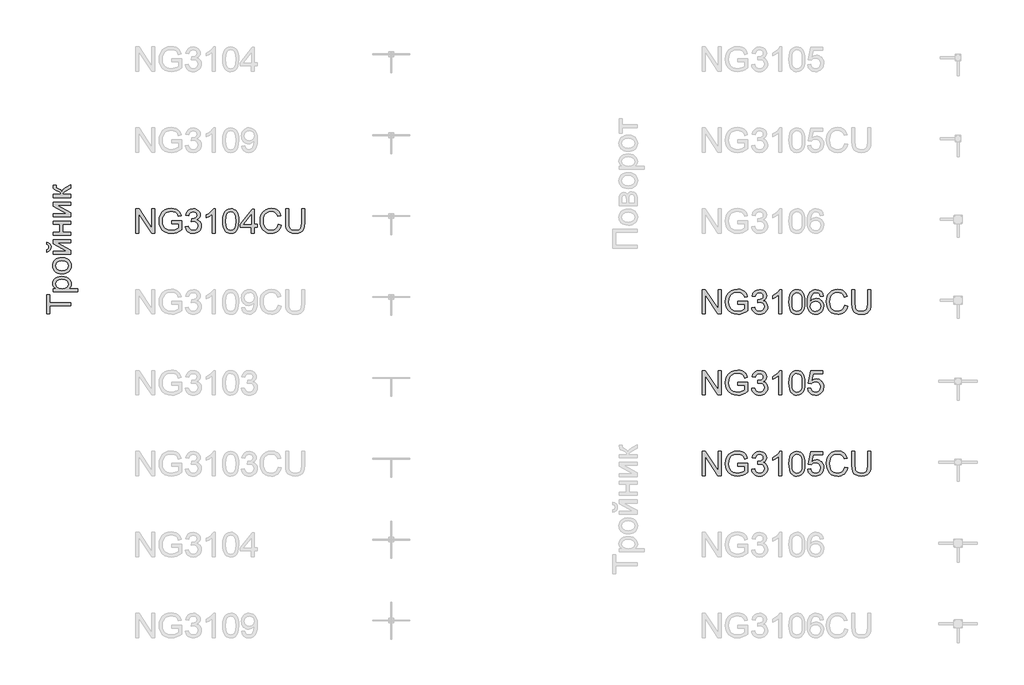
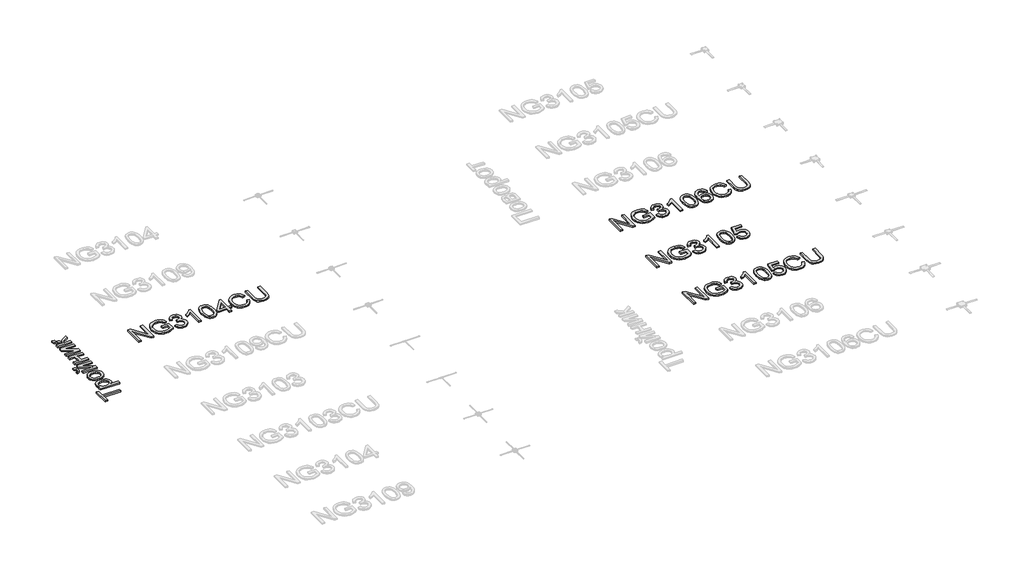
# One storey, part 121 of 124: 5 proxies.
"""IFC4 building model written with IfcOpenShell, lengths in millimetres."""

from ifc_helpers import new_model, si_unit, origin, origin_with_axes, place, context, project, spatial, polyline, outline, extrude, element, save

model = new_model("IFC4")

# Units and contexts
model_context = context("Model", 3, world=origin())
ifc_project = project(units=[si_unit("LENGTHUNIT", "METRE", prefix="MILLI")], contexts=[model_context])

# Site, building, storey
site = spatial("IfcSite", under=ifc_project)
building = spatial("IfcBuilding", under=site)
storey = spatial("IfcBuildingStorey", under=building, Name="Этаж 01", Elevation=0.0)

# Proxies
placement = place(None, origin())
element("IfcBuildingElementProxy", 1, Name="300", ObjectType="300", at=placement, inside=storey, context=model_context, shape_type="SweptSolid", body=[
    extrude(outline(polyline([(56699.8220677, -8519.5141033), (56699.8220677, -8218.1451728), (56740.1419344, -8218.1451728), (56897.5954283, -8456.9005877), (56897.5954283, -8218.1451728), (56935.2665446, -8218.1451728), (56935.2665446, -8519.5141033), (56894.9466779, -8519.5141033), (56737.493184, -8280.685112), (56737.493184, -8519.5141033), (56699.8220677, -8519.5141033)])), origin_with_axes(), (0.0, 0.0, 1.0), 20.0),
    extrude(outline(polyline([(57142.4576843, -8401.7918648), (57142.4576843, -8364.1207485), (57264.8888123, -8364.1207485), (57264.8888123, -8476.7662154), (57235.1363559, -8497.4595776), (57204.4458005, -8512.3036162), (57172.8907223, -8521.2431486), (57140.5446979, -8524.2229928), (57098.2842537, -8519.4865121), (57060.0889056, -8505.27707), (57028.3590835, -8482.0913073), (57005.4952175, -8450.4258646), (56991.6720515, -8412.4420486), (56987.0643295, -8370.301166), (56991.6536574, -8327.8567808), (57005.4216411, -8288.3738457), (57027.7980634, -8255.2552691), (57058.2127074, -8231.9039594), (57095.2584243, -8218.0532023), (57137.5280656, -8213.4362833), (57168.5589118, -8216.1126248), (57196.4627612, -8224.1416493), (57219.9612236, -8236.9439428), (57237.7759092, -8253.9400909), (57250.9552817, -8275.9486313), (57260.5478047, -8303.7881013), (57225.8197444, -8313.5737624), (57218.0666313, -8293.7173317), (57208.6396552, -8278.7353374), (57196.1684556, -8267.4413602), (57179.282672, -8258.6489805), (57159.1503298, -8252.9927948), (57136.9394544, -8251.1073996), (57110.9393944, -8253.1399476), (57088.7101248, -8259.2375917), (57070.3344191, -8268.6369766), (57055.8950508, -8280.5747474), (57036.5076697, -8309.6006368), (57027.6785018, -8338.037915), (57024.7354458, -8368.7560616), (57028.27631, -8404.780906), (57038.8989026, -8434.4229978), (57056.2813269, -8457.4708048), (57080.1016861, -8473.7127949), (57107.9779443, -8483.3421061), (57137.5280656, -8486.5518765), (57163.6200961, -8484.1330524), (57189.0683331, -8476.87658), (57211.1688439, -8466.8793868), (57227.217696, -8456.2384001), (57227.217696, -8401.7918648), (57142.4576843, -8401.7918648)])), origin_with_axes(), (0.0, 0.0, 1.0), 20.0),
    extrude(outline(polyline([(57311.9777077, -8439.4629811), (57349.648824, -8434.7540916), (57358.0825187, -8458.427298), (57370.4341567, -8474.4117707), (57387.3107432, -8483.51685), (57409.3192836, -8486.5518765), (57435.1445997, -8482.3764158), (57455.0838038, -8469.8500339), (57467.8309149, -8451.1616286), (57472.079952, -8428.5000977), (57467.8677031, -8406.988198), (57455.2309566, -8389.5413944), (57436.1010928, -8377.9807027), (57412.4094924, -8374.1271388), (57385.9955651, -8378.2474171), (57390.1894198, -8340.5763008), (57396.2226846, -8341.0177592), (57418.792245, -8338.3138265), (57438.9705724, -8330.2020285), (57453.2076056, -8316.4800301), (57457.9532834, -8296.9454962), (57454.5135867, -8280.6759149), (57444.1944967, -8267.4781484), (57428.4491473, -8258.7317539), (57408.7306724, -8255.8162891), (57388.9754093, -8258.7593451), (57372.8253897, -8267.588513), (57361.0347717, -8282.3037928), (57354.3577135, -8302.9051845), (57316.6865972, -8298.196295), (57327.7782394, -8264.3695455), (57347.5151084, -8239.1144465), (57374.5176468, -8223.3874912), (57407.4062972, -8218.1451728), (57431.0887007, -8220.7295438), (57452.8397236, -8228.4826569), (57471.1786411, -8240.7147332), (57484.624728, -8256.7359941), (57492.8744817, -8275.1944732), (57495.6243997, -8294.7382042), (57493.0124375, -8312.948363), (57485.176551, -8329.4662646), (57472.2271048, -8343.5377509), (57454.2744634, -8354.4086638), (57477.8556993, -8363.9368075), (57495.3300941, -8380.1604035), (57506.1458247, -8402.196535), (57509.7510683, -8429.1622852), (57507.9484465, -8448.2737549), (57502.5405812, -8465.8769084), (57493.5274723, -8481.9717457), (57480.9091199, -8496.5582668), (57465.536251, -8508.6615844), (57448.2595928, -8517.3068113), (57429.0791453, -8522.4939474), (57407.9949084, -8524.2229928), (57388.9386211, -8522.7468663), (57371.5745909, -8518.3184868), (57355.9028179, -8510.9378542), (57341.9233021, -8500.6049687), (57330.201662, -8487.9268354), (57321.3035162, -8473.5104598), (57315.2288648, -8457.3558417), (57311.9777077, -8439.4629811)])), origin_with_axes(), (0.0, 0.0, 1.0), 20.0),
    extrude(outline(polyline([(57683.9799812, -8519.5141033), (57646.3088649, -8519.5141033), (57646.3088649, -8284.6582375), (57610.6243114, -8310.0788834), (57570.9666323, -8329.0983826), (57570.9666323, -8293.4874054), (57600.5535417, -8277.3925681), (57626.1857197, -8258.2443103), (57646.3916383, -8237.8820419), (57659.6997695, -8218.1451728), (57683.9799812, -8218.1451728), (57683.9799812, -8519.5141033)])), origin_with_axes(), (0.0, 0.0, 1.0), 20.0),
    extrude(outline(polyline([(57773.4488824, -8371.2576592), (57776.2171944, -8323.0191326), (57784.5221305, -8284.5478729), (57798.2809171, -8255.2552691), (57817.4107808, -8234.5527098), (57842.0496775, -8222.2470571), (57872.3355627, -8218.1451728), (57895.5489166, -8220.573194), (57916.3342493, -8227.8572575), (57933.7166736, -8239.7122548), (57946.7213021, -8255.8530773), (57956.5437514, -8276.1417694), (57964.3796379, -8300.4403751), (57969.5115917, -8331.2964775), (57971.222243, -8371.2576592), (57968.4815222, -8419.2202743), (57960.2593596, -8457.5995635), (57946.5833464, -8486.9197585), (57927.4810738, -8507.7050912), (57902.7869949, -8520.0935174), (57872.3355627, -8524.2229928), (57851.5870182, -8522.4295681), (57833.1929184, -8517.0492939), (57817.1532634, -8508.0821703), (57803.4680532, -8495.5281972), (57790.334666, -8472.8344766), (57780.9536751, -8444.5581467), (57775.3250806, -8410.6992076), (57773.4488824, -8371.2576592)]), holes=[polyline([(57811.1199987, -8371.1840828), (57815.5345827, -8430.4406752), (57821.0528126, -8450.7086739), (57828.7783345, -8464.7364742), (57848.4968094, -8481.0980259), (57872.3355627, -8486.5518765), (57896.174316, -8481.0796318), (57915.892791, -8464.6628978), (57923.6183128, -8450.6121048), (57929.1365428, -8430.3487047), (57933.5511267, -8371.1840828), (57929.2836956, -8313.2610627), (57923.9494066, -8293.0597426), (57916.4814021, -8278.6985492), (57896.7997154, -8261.5368541), (57871.8941043, -8255.8162891), (57848.3128684, -8260.8562725), (57829.3669457, -8275.9762225), (57821.3839064, -8291.6112072), (57815.6817355, -8312.6908456), (57811.1199987, -8371.1840828)])]), origin_with_axes(), (0.0, 0.0, 1.0), 20.0),
    extrude(outline(polyline([(58197.2489409, -8298.196295), (58159.5778246, -8302.9051845), (58153.5077716, -8284.2351732), (58145.3040031, -8271.4880621), (58128.2158845, -8259.7342324), (58107.5593104, -8255.8162891), (58090.0481275, -8258.0971575), (58073.5670141, -8264.9397626), (58059.4127543, -8279.3515398), (58047.8520626, -8299.1895763), (58040.0437673, -8327.2497755), (58037.1466966, -8366.3280405), (58052.2574495, -8348.6972959), (58070.3664407, -8336.2720815), (58090.4619947, -8328.9052445), (58111.532436, -8326.4496322), (58129.6322301, -8328.1280938), (58146.3340727, -8333.1634786), (58161.6379637, -8341.5557866), (58175.5439031, -8353.3050178), (58187.0999963, -8367.7121965), (58195.3543486, -8384.0783467), (58200.3069599, -8402.4034686), (58201.9578304, -8422.6875621), (58198.8492275, -8449.6625094), (58189.523419, -8474.669288), (58174.7529569, -8495.8776851), (58155.3103934, -8511.4574876), (58132.0786454, -8521.0316165), (58105.9406297, -8524.2229928), (58083.4837331, -8522.1076713), (58063.2019389, -8515.7617069), (58045.0952469, -8505.1850995), (58029.1636573, -8490.3778492), (58016.1751236, -8470.7145566), (58006.8975995, -8445.5698222), (58001.3310851, -8414.9436461), (57999.4755803, -8378.8360283), (58001.5357194, -8338.3552133), (58007.7161369, -8303.8064954), (58018.0168328, -8275.1898747), (58032.437807, -8252.5053512), (58048.0681933, -8237.4727731), (58066.1909801, -8226.7352174), (58086.8061674, -8220.292684), (58109.9137552, -8218.1451728), (58142.9679525, -8223.4610676), (58169.437062, -8239.4087521), (58187.9783146, -8264.7374275), (58197.2489409, -8298.196295)]), holes=[polyline([(58037.1466966, -8422.0989509), (58039.3263974, -8438.7915965), (58045.8654998, -8454.7300839), (58056.0190429, -8468.4336882), (58069.0420655, -8478.4216844), (58084.7598238, -8484.5193285), (58102.9975737, -8486.5518765), (58127.8571995, -8482.3396276), (58147.4009305, -8469.7028811), (58160.0652682, -8449.8372534), (58164.2867141, -8423.9383609), (58160.1204505, -8399.0787351), (58147.6216597, -8380.1236153), (58127.7468349, -8368.1214652), (58101.4524693, -8364.1207485), (58076.6296317, -8368.1214652), (58055.8718901, -8380.1236153), (58041.8279949, -8398.6188826), (58037.1466966, -8422.0989509)])]), origin_with_axes(), (0.0, 0.0, 1.0), 20.0),
    extrude(outline(polyline([(58460.946755, -8412.3868663), (58498.6178713, -8422.0989509), (58491.1636624, -8445.5261362), (58481.235447, -8465.99647), (58468.8332253, -8483.5099522), (58453.9569971, -8498.0665829), (58436.9424548, -8509.5100123), (58418.1252908, -8517.6838903), (58397.5055049, -8522.5882172), (58375.0830973, -8524.2229928), (58331.3879134, -8519.27498), (58296.6874442, -8504.4309415), (58270.0895759, -8480.2059121), (58250.7021948, -8447.1149266), (58238.8655916, -8408.2114056), (58234.9200572, -8366.5487697), (58239.3806264, -8322.6052653), (58252.7623339, -8284.6582375), (58274.3662041, -8253.9124998), (58303.4932611, -8231.5728656), (58338.0373804, -8217.9704289), (58375.8924377, -8213.4362833), (58417.1963887, -8219.3040011), (58435.1651249, -8226.6386484), (58451.3450349, -8236.9071546), (58465.4694043, -8249.8382067), (58477.2715185, -8265.1604918), (58493.9089818, -8302.9787609), (58456.2378655, -8311.9550816), (58443.1780546, -8284.4834936), (58425.3357779, -8265.6387384), (58402.490306, -8254.7402343), (58374.4209097, -8251.1073996), (58342.0656883, -8255.1357074), (58315.4862141, -8267.220631), (58295.3170837, -8286.0929773), (58282.1928935, -8310.4835536), (58274.9916035, -8338.0563091), (58272.5911735, -8366.4751933), (58275.4330619, -8401.27683), (58283.9587271, -8431.3695772), (58298.4900659, -8455.6038036), (58319.3489751, -8472.8298781), (58344.3557537, -8483.1213769), (58371.330701, -8486.5518765), (58402.7754145, -8481.8797752), (58428.9778096, -8467.8634711), (58448.7606639, -8444.6501172), (58460.946755, -8412.3868663)])), origin_with_axes(), (0.0, 0.0, 1.0), 20.0),
    extrude(outline(polyline([(58748.1890168, -8218.1451728), (58785.8601331, -8218.1451728), (58785.8601331, -8392.0062037), (58783.3033533, -8432.7215435), (58775.6330137, -8464.0742866), (58761.30401, -8488.2625278), (58738.7712378, -8507.484362), (58707.9795148, -8520.0383351), (58668.8736587, -8524.2229928), (58630.6231282, -8520.580961), (58600.0429374, -8509.6548658), (58577.1238891, -8491.8217861), (58561.8567863, -8467.4588009), (58553.2759387, -8434.7816827), (58550.4156562, -8392.0062037), (58550.4156562, -8218.1451728), (58588.0867725, -8218.1451728), (58588.0867725, -8390.6818285), (58589.9445766, -8424.5361692), (58595.5179888, -8448.108208), (58605.6163496, -8464.4329715), (58621.0489993, -8476.5454862), (58641.1721444, -8484.0502789), (58665.3419915, -8486.5518765), (58703.6569013, -8481.6038637), (58717.9997006, -8475.4188476), (58729.1327295, -8466.7598252), (58737.4698552, -8454.5829311), (58743.424945, -8437.8443003), (58748.1890168, -8390.6818285), (58748.1890168, -8218.1451728)])), origin_with_axes(), (0.0, 0.0, 1.0), 20.0),
])
element("IfcBuildingElementProxy", 2, Name="300", ObjectType="300", at=placement, inside=storey, context=model_context, shape_type="SweptSolid", body=[
    extrude(outline(polyline([(56699.8220677, -9519.5141033), (56699.8220677, -9218.1451728), (56740.1419344, -9218.1451728), (56897.5954283, -9456.9005877), (56897.5954283, -9218.1451728), (56935.2665446, -9218.1451728), (56935.2665446, -9519.5141033), (56894.9466779, -9519.5141033), (56737.493184, -9280.685112), (56737.493184, -9519.5141033), (56699.8220677, -9519.5141033)])), origin_with_axes(), (0.0, 0.0, 1.0), 20.0),
    extrude(outline(polyline([(57142.4576843, -9401.7918648), (57142.4576843, -9364.1207485), (57264.8888123, -9364.1207485), (57264.8888123, -9476.7662154), (57235.1363559, -9497.4595776), (57204.4458005, -9512.3036162), (57172.8907223, -9521.2431486), (57140.5446979, -9524.2229928), (57098.2842537, -9519.4865121), (57060.0889056, -9505.27707), (57028.3590835, -9482.0913073), (57005.4952175, -9450.4258646), (56991.6720515, -9412.4420486), (56987.0643295, -9370.301166), (56991.6536574, -9327.8567808), (57005.4216411, -9288.3738457), (57027.7980634, -9255.2552691), (57058.2127074, -9231.9039594), (57095.2584243, -9218.0532023), (57137.5280656, -9213.4362833), (57168.5589118, -9216.1126248), (57196.4627612, -9224.1416493), (57219.9612236, -9236.9439428), (57237.7759092, -9253.9400909), (57250.9552817, -9275.9486313), (57260.5478047, -9303.7881013), (57225.8197444, -9313.5737624), (57218.0666313, -9293.7173317), (57208.6396552, -9278.7353374), (57196.1684556, -9267.4413602), (57179.282672, -9258.6489805), (57159.1503298, -9252.9927948), (57136.9394544, -9251.1073996), (57110.9393944, -9253.1399476), (57088.7101248, -9259.2375917), (57070.3344191, -9268.6369766), (57055.8950508, -9280.5747474), (57036.5076697, -9309.6006368), (57027.6785018, -9338.037915), (57024.7354458, -9368.7560616), (57028.27631, -9404.780906), (57038.8989026, -9434.4229978), (57056.2813269, -9457.4708048), (57080.1016861, -9473.7127949), (57107.9779443, -9483.3421061), (57137.5280656, -9486.5518765), (57163.6200961, -9484.1330524), (57189.0683331, -9476.87658), (57211.1688439, -9466.8793868), (57227.217696, -9456.2384001), (57227.217696, -9401.7918648), (57142.4576843, -9401.7918648)])), origin_with_axes(), (0.0, 0.0, 1.0), 20.0),
    extrude(outline(polyline([(57311.9777077, -9439.4629811), (57349.648824, -9434.7540916), (57358.0825187, -9458.427298), (57370.4341567, -9474.4117707), (57387.3107432, -9483.51685), (57409.3192836, -9486.5518765), (57435.1445997, -9482.3764158), (57455.0838038, -9469.8500339), (57467.8309149, -9451.1616286), (57472.079952, -9428.5000977), (57467.8677031, -9406.988198), (57455.2309566, -9389.5413944), (57436.1010928, -9377.9807027), (57412.4094924, -9374.1271388), (57385.9955651, -9378.2474171), (57390.1894198, -9340.5763008), (57396.2226846, -9341.0177592), (57418.792245, -9338.3138265), (57438.9705724, -9330.2020285), (57453.2076056, -9316.4800301), (57457.9532834, -9296.9454962), (57454.5135867, -9280.6759149), (57444.1944967, -9267.4781484), (57428.4491473, -9258.7317539), (57408.7306724, -9255.8162891), (57388.9754093, -9258.7593451), (57372.8253897, -9267.588513), (57361.0347717, -9282.3037928), (57354.3577135, -9302.9051845), (57316.6865972, -9298.196295), (57327.7782394, -9264.3695455), (57347.5151084, -9239.1144465), (57374.5176468, -9223.3874912), (57407.4062972, -9218.1451728), (57431.0887007, -9220.7295438), (57452.8397236, -9228.4826569), (57471.1786411, -9240.7147332), (57484.624728, -9256.7359941), (57492.8744817, -9275.1944732), (57495.6243997, -9294.7382042), (57493.0124375, -9312.948363), (57485.176551, -9329.4662646), (57472.2271048, -9343.5377509), (57454.2744634, -9354.4086638), (57477.8556993, -9363.9368075), (57495.3300941, -9380.1604035), (57506.1458247, -9402.196535), (57509.7510683, -9429.1622852), (57507.9484465, -9448.2737549), (57502.5405812, -9465.8769084), (57493.5274723, -9481.9717457), (57480.9091199, -9496.5582668), (57465.536251, -9508.6615844), (57448.2595928, -9517.3068113), (57429.0791453, -9522.4939474), (57407.9949084, -9524.2229928), (57388.9386211, -9522.7468663), (57371.5745909, -9518.3184868), (57355.9028179, -9510.9378542), (57341.9233021, -9500.6049687), (57330.201662, -9487.9268354), (57321.3035162, -9473.5104598), (57315.2288648, -9457.3558417), (57311.9777077, -9439.4629811)])), origin_with_axes(), (0.0, 0.0, 1.0), 20.0),
    extrude(outline(polyline([(57683.9799812, -9519.5141033), (57646.3088649, -9519.5141033), (57646.3088649, -9284.6582375), (57610.6243114, -9310.0788834), (57570.9666323, -9329.0983826), (57570.9666323, -9293.4874054), (57600.5535417, -9277.3925681), (57626.1857197, -9258.2443103), (57646.3916383, -9237.8820419), (57659.6997695, -9218.1451728), (57683.9799812, -9218.1451728), (57683.9799812, -9519.5141033)])), origin_with_axes(), (0.0, 0.0, 1.0), 20.0),
    extrude(outline(polyline([(57773.4488824, -9371.2576592), (57776.2171944, -9323.0191326), (57784.5221305, -9284.5478729), (57798.2809171, -9255.2552691), (57817.4107808, -9234.5527098), (57842.0496775, -9222.2470571), (57872.3355627, -9218.1451728), (57895.5489166, -9220.573194), (57916.3342493, -9227.8572575), (57933.7166736, -9239.7122548), (57946.7213021, -9255.8530773), (57956.5437514, -9276.1417694), (57964.3796379, -9300.4403751), (57969.5115917, -9331.2964775), (57971.222243, -9371.2576592), (57968.4815222, -9419.2202743), (57960.2593596, -9457.5995635), (57946.5833464, -9486.9197585), (57927.4810738, -9507.7050912), (57902.7869949, -9520.0935174), (57872.3355627, -9524.2229928), (57851.5870182, -9522.4295681), (57833.1929184, -9517.0492939), (57817.1532634, -9508.0821703), (57803.4680532, -9495.5281972), (57790.334666, -9472.8344766), (57780.9536751, -9444.5581467), (57775.3250806, -9410.6992076), (57773.4488824, -9371.2576592)]), holes=[polyline([(57811.1199987, -9371.1840828), (57815.5345827, -9430.4406752), (57821.0528126, -9450.7086739), (57828.7783345, -9464.7364742), (57848.4968094, -9481.0980259), (57872.3355627, -9486.5518765), (57896.174316, -9481.0796318), (57915.892791, -9464.6628978), (57923.6183128, -9450.6121048), (57929.1365428, -9430.3487047), (57933.5511267, -9371.1840828), (57929.2836956, -9313.2610627), (57923.9494066, -9293.0597426), (57916.4814021, -9278.6985492), (57896.7997154, -9261.5368541), (57871.8941043, -9255.8162891), (57848.3128684, -9260.8562725), (57829.3669457, -9275.9762225), (57821.3839064, -9291.6112072), (57815.6817355, -9312.6908456), (57811.1199987, -9371.1840828)])]), origin_with_axes(), (0.0, 0.0, 1.0), 20.0),
    extrude(outline(polyline([(58004.1844698, -9439.4629811), (58041.8555861, -9434.7540916), (58048.7717676, -9457.3696372), (58060.838297, -9473.5656421), (58077.9999921, -9483.3053179), (58100.2016705, -9486.5518765), (58127.204209, -9482.036125), (58147.4377187, -9468.4888705), (58160.0744652, -9447.4736116), (58164.2867141, -9420.5538466), (58160.3411797, -9395.2067771), (58148.5045765, -9375.8193959), (58128.684934, -9363.5137432), (58100.7902817, -9359.411859), (58082.5157436, -9361.0489338), (58067.7176904, -9365.9601585), (58046.5644756, -9382.9563067), (58008.8933593, -9378.2474171), (58041.8555861, -9222.8540624), (58187.8311618, -9222.8540624), (58187.8311618, -9260.5251787), (58072.3162153, -9260.5251787), (58056.2029839, -9343.5193568), (58083.1135519, -9327.1853962), (58111.3117068, -9321.7407427), (58129.657522, -9323.4284013), (58146.5088167, -9328.4913773), (58161.8655907, -9336.9296705), (58175.7278441, -9348.7432811), (58187.2034631, -9363.2102406), (58195.4003338, -9379.6085805), (58200.3184563, -9397.9383009), (58201.9578304, -9418.1994018), (58196.0533244, -9455.8705181), (58188.6726918, -9472.6643312), (58178.3398063, -9488.0969809), (58162.6864274, -9503.9021111), (58144.4210864, -9515.1914898), (58123.5437831, -9521.9651171), (58100.0545177, -9524.2229928), (58063.0547861, -9518.4196543), (58047.3761153, -9511.1654812), (58033.5782412, -9501.0096389), (58022.0980237, -9488.4579651), (58013.3723226, -9474.0162975), (58004.1844698, -9439.4629811)])), origin_with_axes(), (0.0, 0.0, 1.0), 20.0),
])
element("IfcBuildingElementProxy", 3, Name="300", ObjectType="300", at=placement, inside=storey, context=model_context, shape_type="SweptSolid", body=[
    extrude(outline(polyline([(56699.8220677, -10519.5141033), (56699.8220677, -10218.1451728), (56740.1419344, -10218.1451728), (56897.5954283, -10456.9005877), (56897.5954283, -10218.1451728), (56935.2665446, -10218.1451728), (56935.2665446, -10519.5141033), (56894.9466779, -10519.5141033), (56737.493184, -10280.685112), (56737.493184, -10519.5141033), (56699.8220677, -10519.5141033)])), origin_with_axes(), (0.0, 0.0, 1.0), 20.0),
    extrude(outline(polyline([(57142.4576843, -10401.7918648), (57142.4576843, -10364.1207485), (57264.8888123, -10364.1207485), (57264.8888123, -10476.7662154), (57235.1363559, -10497.4595776), (57204.4458005, -10512.3036162), (57172.8907223, -10521.2431486), (57140.5446979, -10524.2229928), (57098.2842537, -10519.4865121), (57060.0889056, -10505.27707), (57028.3590835, -10482.0913073), (57005.4952175, -10450.4258646), (56991.6720515, -10412.4420486), (56987.0643295, -10370.301166), (56991.6536574, -10327.8567808), (57005.4216411, -10288.3738457), (57027.7980634, -10255.2552691), (57058.2127074, -10231.9039594), (57095.2584243, -10218.0532023), (57137.5280656, -10213.4362833), (57168.5589118, -10216.1126248), (57196.4627612, -10224.1416493), (57219.9612236, -10236.9439428), (57237.7759092, -10253.9400909), (57250.9552817, -10275.9486313), (57260.5478047, -10303.7881013), (57225.8197444, -10313.5737624), (57218.0666313, -10293.7173317), (57208.6396552, -10278.7353374), (57196.1684556, -10267.4413602), (57179.282672, -10258.6489805), (57159.1503298, -10252.9927948), (57136.9394544, -10251.1073996), (57110.9393944, -10253.1399476), (57088.7101248, -10259.2375917), (57070.3344191, -10268.6369766), (57055.8950508, -10280.5747474), (57036.5076697, -10309.6006368), (57027.6785018, -10338.037915), (57024.7354458, -10368.7560616), (57028.27631, -10404.780906), (57038.8989026, -10434.4229978), (57056.2813269, -10457.4708048), (57080.1016861, -10473.7127949), (57107.9779443, -10483.3421061), (57137.5280656, -10486.5518765), (57163.6200961, -10484.1330524), (57189.0683331, -10476.87658), (57211.1688439, -10466.8793868), (57227.217696, -10456.2384001), (57227.217696, -10401.7918648), (57142.4576843, -10401.7918648)])), origin_with_axes(), (0.0, 0.0, 1.0), 20.0),
    extrude(outline(polyline([(57311.9777077, -10439.4629811), (57349.648824, -10434.7540916), (57358.0825187, -10458.427298), (57370.4341567, -10474.4117707), (57387.3107432, -10483.51685), (57409.3192836, -10486.5518765), (57435.1445997, -10482.3764158), (57455.0838038, -10469.8500339), (57467.8309149, -10451.1616286), (57472.079952, -10428.5000977), (57467.8677031, -10406.988198), (57455.2309566, -10389.5413944), (57436.1010928, -10377.9807027), (57412.4094924, -10374.1271388), (57385.9955651, -10378.2474171), (57390.1894198, -10340.5763008), (57396.2226846, -10341.0177592), (57418.792245, -10338.3138265), (57438.9705724, -10330.2020285), (57453.2076056, -10316.4800301), (57457.9532834, -10296.9454962), (57454.5135867, -10280.6759149), (57444.1944967, -10267.4781484), (57428.4491473, -10258.7317539), (57408.7306724, -10255.8162891), (57388.9754093, -10258.7593451), (57372.8253897, -10267.588513), (57361.0347717, -10282.3037928), (57354.3577135, -10302.9051845), (57316.6865972, -10298.196295), (57327.7782394, -10264.3695455), (57347.5151084, -10239.1144465), (57374.5176468, -10223.3874912), (57407.4062972, -10218.1451728), (57431.0887007, -10220.7295438), (57452.8397236, -10228.4826569), (57471.1786411, -10240.7147332), (57484.624728, -10256.7359941), (57492.8744817, -10275.1944732), (57495.6243997, -10294.7382042), (57493.0124375, -10312.948363), (57485.176551, -10329.4662646), (57472.2271048, -10343.5377509), (57454.2744634, -10354.4086638), (57477.8556993, -10363.9368075), (57495.3300941, -10380.1604035), (57506.1458247, -10402.196535), (57509.7510683, -10429.1622852), (57507.9484465, -10448.2737549), (57502.5405812, -10465.8769084), (57493.5274723, -10481.9717457), (57480.9091199, -10496.5582668), (57465.536251, -10508.6615844), (57448.2595928, -10517.3068113), (57429.0791453, -10522.4939474), (57407.9949084, -10524.2229928), (57388.9386211, -10522.7468663), (57371.5745909, -10518.3184868), (57355.9028179, -10510.9378542), (57341.9233021, -10500.6049687), (57330.201662, -10487.9268354), (57321.3035162, -10473.5104598), (57315.2288648, -10457.3558417), (57311.9777077, -10439.4629811)])), origin_with_axes(), (0.0, 0.0, 1.0), 20.0),
    extrude(outline(polyline([(57683.9799812, -10519.5141033), (57646.3088649, -10519.5141033), (57646.3088649, -10284.6582375), (57610.6243114, -10310.0788834), (57570.9666323, -10329.0983826), (57570.9666323, -10293.4874054), (57600.5535417, -10277.3925681), (57626.1857197, -10258.2443103), (57646.3916383, -10237.8820419), (57659.6997695, -10218.1451728), (57683.9799812, -10218.1451728), (57683.9799812, -10519.5141033)])), origin_with_axes(), (0.0, 0.0, 1.0), 20.0),
    extrude(outline(polyline([(57773.4488824, -10371.2576592), (57776.2171944, -10323.0191326), (57784.5221305, -10284.5478729), (57798.2809171, -10255.2552691), (57817.4107808, -10234.5527098), (57842.0496775, -10222.2470571), (57872.3355627, -10218.1451728), (57895.5489166, -10220.573194), (57916.3342493, -10227.8572575), (57933.7166736, -10239.7122548), (57946.7213021, -10255.8530773), (57956.5437514, -10276.1417694), (57964.3796379, -10300.4403751), (57969.5115917, -10331.2964775), (57971.222243, -10371.2576592), (57968.4815222, -10419.2202743), (57960.2593596, -10457.5995635), (57946.5833464, -10486.9197585), (57927.4810738, -10507.7050912), (57902.7869949, -10520.0935174), (57872.3355627, -10524.2229928), (57851.5870182, -10522.4295681), (57833.1929184, -10517.0492939), (57817.1532634, -10508.0821703), (57803.4680532, -10495.5281972), (57790.334666, -10472.8344766), (57780.9536751, -10444.5581467), (57775.3250806, -10410.6992076), (57773.4488824, -10371.2576592)]), holes=[polyline([(57811.1199987, -10371.1840828), (57815.5345827, -10430.4406752), (57821.0528126, -10450.7086739), (57828.7783345, -10464.7364742), (57848.4968094, -10481.0980259), (57872.3355627, -10486.5518765), (57896.174316, -10481.0796318), (57915.892791, -10464.6628978), (57923.6183128, -10450.6121048), (57929.1365428, -10430.3487047), (57933.5511267, -10371.1840828), (57929.2836956, -10313.2610627), (57923.9494066, -10293.0597426), (57916.4814021, -10278.6985492), (57896.7997154, -10261.5368541), (57871.8941043, -10255.8162891), (57848.3128684, -10260.8562725), (57829.3669457, -10275.9762225), (57821.3839064, -10291.6112072), (57815.6817355, -10312.6908456), (57811.1199987, -10371.1840828)])]), origin_with_axes(), (0.0, 0.0, 1.0), 20.0),
    extrude(outline(polyline([(58004.1844698, -10439.4629811), (58041.8555861, -10434.7540916), (58048.7717676, -10457.3696372), (58060.838297, -10473.5656421), (58077.9999921, -10483.3053179), (58100.2016705, -10486.5518765), (58127.204209, -10482.036125), (58147.4377187, -10468.4888705), (58160.0744652, -10447.4736116), (58164.2867141, -10420.5538466), (58160.3411797, -10395.2067771), (58148.5045765, -10375.8193959), (58128.684934, -10363.5137432), (58100.7902817, -10359.411859), (58082.5157436, -10361.0489338), (58067.7176904, -10365.9601585), (58046.5644756, -10382.9563067), (58008.8933593, -10378.2474171), (58041.8555861, -10222.8540624), (58187.8311618, -10222.8540624), (58187.8311618, -10260.5251787), (58072.3162153, -10260.5251787), (58056.2029839, -10343.5193568), (58083.1135519, -10327.1853962), (58111.3117068, -10321.7407427), (58129.657522, -10323.4284013), (58146.5088167, -10328.4913773), (58161.8655907, -10336.9296705), (58175.7278441, -10348.7432811), (58187.2034631, -10363.2102406), (58195.4003338, -10379.6085805), (58200.3184563, -10397.9383009), (58201.9578304, -10418.1994018), (58196.0533244, -10455.8705181), (58188.6726918, -10472.6643312), (58178.3398063, -10488.0969809), (58162.6864274, -10503.9021111), (58144.4210864, -10515.1914898), (58123.5437831, -10521.9651171), (58100.0545177, -10524.2229928), (58063.0547861, -10518.4196543), (58047.3761153, -10511.1654812), (58033.5782412, -10501.0096389), (58022.0980237, -10488.4579651), (58013.3723226, -10474.0162975), (58004.1844698, -10439.4629811)])), origin_with_axes(), (0.0, 0.0, 1.0), 20.0),
    extrude(outline(polyline([(58460.946755, -10412.3868663), (58498.6178713, -10422.0989509), (58491.1636624, -10445.5261362), (58481.235447, -10465.99647), (58468.8332253, -10483.5099522), (58453.9569971, -10498.0665829), (58436.9424548, -10509.5100123), (58418.1252908, -10517.6838903), (58397.5055049, -10522.5882172), (58375.0830973, -10524.2229928), (58331.3879134, -10519.27498), (58296.6874442, -10504.4309415), (58270.0895759, -10480.2059121), (58250.7021948, -10447.1149266), (58238.8655916, -10408.2114056), (58234.9200572, -10366.5487697), (58239.3806264, -10322.6052653), (58252.7623339, -10284.6582375), (58274.3662041, -10253.9124998), (58303.4932611, -10231.5728656), (58338.0373804, -10217.9704289), (58375.8924377, -10213.4362833), (58417.1963887, -10219.3040011), (58435.1651249, -10226.6386484), (58451.3450349, -10236.9071546), (58465.4694043, -10249.8382067), (58477.2715185, -10265.1604918), (58493.9089818, -10302.9787609), (58456.2378655, -10311.9550816), (58443.1780546, -10284.4834936), (58425.3357779, -10265.6387384), (58402.490306, -10254.7402343), (58374.4209097, -10251.1073996), (58342.0656883, -10255.1357074), (58315.4862141, -10267.220631), (58295.3170837, -10286.0929773), (58282.1928935, -10310.4835536), (58274.9916035, -10338.0563091), (58272.5911735, -10366.4751933), (58275.4330619, -10401.27683), (58283.9587271, -10431.3695772), (58298.4900659, -10455.6038036), (58319.3489751, -10472.8298781), (58344.3557537, -10483.1213769), (58371.330701, -10486.5518765), (58402.7754145, -10481.8797752), (58428.9778096, -10467.8634711), (58448.7606639, -10444.6501172), (58460.946755, -10412.3868663)])), origin_with_axes(), (0.0, 0.0, 1.0), 20.0),
    extrude(outline(polyline([(58748.1890168, -10218.1451728), (58785.8601331, -10218.1451728), (58785.8601331, -10392.0062037), (58783.3033533, -10432.7215435), (58775.6330137, -10464.0742866), (58761.30401, -10488.2625278), (58738.7712378, -10507.484362), (58707.9795148, -10520.0383351), (58668.8736587, -10524.2229928), (58630.6231282, -10520.580961), (58600.0429374, -10509.6548658), (58577.1238891, -10491.8217861), (58561.8567863, -10467.4588009), (58553.2759387, -10434.7816827), (58550.4156562, -10392.0062037), (58550.4156562, -10218.1451728), (58588.0867725, -10218.1451728), (58588.0867725, -10390.6818285), (58589.9445766, -10424.5361692), (58595.5179888, -10448.108208), (58605.6163496, -10464.4329715), (58621.0489993, -10476.5454862), (58641.1721444, -10484.0502789), (58665.3419915, -10486.5518765), (58703.6569013, -10481.6038637), (58717.9997006, -10475.4188476), (58729.1327295, -10466.7598252), (58737.4698552, -10454.5829311), (58743.424945, -10437.8443003), (58748.1890168, -10390.6818285), (58748.1890168, -10218.1451728)])), origin_with_axes(), (0.0, 0.0, 1.0), 20.0),
])
element("IfcBuildingElementProxy", 4, Name="300", ObjectType="300", at=placement, inside=storey, context=model_context, shape_type="SweptSolid", body=[
    extrude(outline(polyline([(48897.1762432, -8417.1331351), (48633.4784291, -8417.1331351), (48633.4784291, -8516.0198154), (48595.8073128, -8516.0198154), (48595.8073128, -8280.5753385), (48633.4784291, -8280.5753385), (48633.4784291, -8379.4620188), (48897.1762432, -8379.4620188), (48897.1762432, -8417.1331351)])), origin_with_axes(), (0.0, 0.0, 1.0), 20.0),
    extrude(outline(polyline([(48981.9362549, -8242.9042221), (48675.8584349, -8242.9042221), (48675.8584349, -8205.2331058), (48712.7937873, -8205.2331058), (48694.5744314, -8192.9458472), (48681.5606059, -8179.1870606), (48673.7523105, -8163.1474056), (48671.1495454, -8144.0175418), (48674.7915772, -8118.5417137), (48685.7176724, -8096.2664589), (48703.2656436, -8078.1298765), (48726.7733031, -8065.0700657), (48754.5299996, -8057.1789969), (48784.8250819, -8054.5486406), (48817.0423476, -8057.5192877), (48845.8567049, -8066.4312291), (48869.8058228, -8080.9993561), (48887.4273704, -8100.9385602), (48898.2706922, -8124.1611112), (48901.8851328, -8148.5792786), (48899.4663087, -8165.8973235), (48892.2098363, -8181.3575644), (48881.2561499, -8194.5921191), (48867.7456836, -8205.2331058), (48981.9362549, -8205.2331058), (48981.9362549, -8242.9042221)]), holes=[polyline([(48788.2831727, -8205.2331058), (48822.0547398, -8201.1588127), (48845.6727639, -8188.9359335), (48859.5787033, -8170.9005186), (48864.2140165, -8149.388619), (48859.4131564, -8127.5272314), (48845.0105763, -8109.0319641), (48820.5280295, -8096.4228087), (48785.4872695, -8092.2197569), (48751.8996433, -8096.3216412), (48727.9505255, -8108.6272939), (48713.6031276, -8126.6351176), (48708.8206617, -8147.8435146), (48713.9066303, -8169.1346851), (48729.164536, -8187.8322875), (48754.1161324, -8200.8829013), (48788.2831727, -8205.2331058)])]), origin_with_axes(), (0.0, 0.0, 1.0), 20.0),
    extrude(outline(polyline([(48786.5173391, -8021.5864139), (48757.8547331, -8019.5492673), (48733.1560557, -8013.4378277), (48712.4213067, -8003.2520949), (48695.6504863, -7988.9920691), (48684.9313246, -7974.6354742), (48677.2747806, -7958.7889573), (48672.6808542, -7941.4525183), (48671.1495454, -7922.6261571), (48673.0142473, -7901.8431237), (48678.6083529, -7883.0512515), (48687.9318622, -7866.2505406), (48700.9847752, -7851.4409911), (48717.3256336, -7839.3537683), (48736.5129789, -7830.7200377), (48758.5468111, -7825.5397994), (48783.4271303, -7823.8130532), (48821.4845227, -7826.8664738), (48850.4552298, -7836.0267355), (48872.1510705, -7851.0271238), (48888.3838636, -7871.6009244), (48898.5098155, -7896.0374859), (48901.8851328, -7922.6261571), (48900.0273287, -7943.7126933), (48894.4539165, -7962.6793094), (48885.1648961, -7979.5260055), (48872.1602676, -7994.2527816), (48855.6607601, -8006.2112457), (48835.8871028, -8014.7530058), (48812.8392958, -8019.8780618), (48786.5173391, -8021.5864139)]), holes=[polyline([(48786.4437627, -7983.9152975), (48820.5372266, -7979.5558959), (48844.8266353, -7966.477691), (48859.3671712, -7946.7960042), (48864.2140165, -7922.6261571), (48859.33958, -7898.5666747), (48844.7162707, -7878.9217761), (48820.1049652, -7865.8435712), (48785.2665403, -7861.4841695), (48752.1663578, -7865.8711623), (48728.2080429, -7879.0321407), (48713.667507, -7898.7046304), (48708.8206617, -7922.6261571), (48713.6491129, -7946.7960042), (48728.1344665, -7966.477691), (48752.3686929, -7979.5558959), (48786.4437627, -7983.9152975)])]), origin_with_axes(), (0.0, 0.0, 1.0), 20.0),
    extrude(outline(polyline([(48675.8584349, -7781.4330474), (48675.8584349, -7743.7619311), (48844.6426943, -7743.7619311), (48675.8584349, -7651.2028211), (48675.8584349, -7602.4952449), (48897.1762432, -7602.4952449), (48897.1762432, -7640.1663613), (48729.4220534, -7640.1663613), (48897.1762432, -7732.13686), (48897.1762432, -7781.4330474), (48675.8584349, -7781.4330474)])), origin_with_axes(), (0.0, 0.0, 1.0), 20.0),
    extrude(outline(polyline([(48595.8073128, -7659.0019194), (48595.8073128, -7630.7485822), (48619.9311746, -7636.8278321), (48637.709072, -7649.0323173), (48648.6627584, -7666.8102148), (48652.3139872, -7689.6097014), (48648.6903496, -7714.3497656), (48637.8194366, -7733.5348116), (48620.0691304, -7746.6498048), (48595.8073128, -7753.1797102), (48595.8073128, -7724.9263729), (48608.2141331, -7720.9532474), (48617.0341039, -7714.3313715), (48622.3040135, -7705.023957), (48624.06065, -7692.9942158), (48622.3591958, -7679.4193701), (48617.2548331, -7669.5969209), (48608.4900446, -7662.975045), (48595.8073128, -7659.0019194)])), origin_with_axes(), (0.0, 0.0, 1.0), 20.0),
    extrude(outline(polyline([(48675.8584349, -7545.9885705), (48675.8584349, -7508.3174542), (48760.6184466, -7508.3174542), (48760.6184466, -7409.4307739), (48675.8584349, -7409.4307739), (48675.8584349, -7371.7596576), (48897.1762432, -7371.7596576), (48897.1762432, -7409.4307739), (48798.2895629, -7409.4307739), (48798.2895629, -7508.3174542), (48897.1762432, -7508.3174542), (48897.1762432, -7545.9885705), (48675.8584349, -7545.9885705)])), origin_with_axes(), (0.0, 0.0, 1.0), 20.0),
    extrude(outline(polyline([(48675.8584349, -7315.2529831), (48675.8584349, -7277.5818668), (48844.6426943, -7277.5818668), (48675.8584349, -7185.0227568), (48675.8584349, -7136.3151807), (48897.1762432, -7136.3151807), (48897.1762432, -7173.986297), (48729.4220534, -7173.986297), (48897.1762432, -7265.9567958), (48897.1762432, -7315.2529831), (48675.8584349, -7315.2529831)])), origin_with_axes(), (0.0, 0.0, 1.0), 20.0),
    extrude(outline(polyline([(48675.8584349, -7079.8085062), (48675.8584349, -7042.1373899), (48770.0362257, -7042.1373899), (48768.3439685, -7026.8151048), (48763.267197, -7016.900685), (48750.0234452, -7008.1266994), (48723.8302471, -6996.2257169), (48689.8011626, -6979.0456277), (48678.7279145, -6963.8888895), (48675.8584349, -6936.3345281), (48675.8584349, -6929.124041), (48713.7502804, -6929.124041), (48713.5295512, -6939.277584), (48717.5026768, -6957.6716838), (48742.2979233, -6970.62113), (48769.1165207, -6985.8146564), (48782.2499079, -7007.115024), (48787.5520072, -6995.1772532), (48796.9100054, -6983.3498471), (48827.7936989, -6960.0261286), (48897.1762432, -6919.7062619), (48897.1762432, -6962.5277261), (48829.2652269, -7002.0382524), (48800.5336431, -7021.9038802), (48795.3189158, -7031.1929005), (48793.5806734, -7042.1373899), (48897.1762432, -7042.1373899), (48897.1762432, -7079.8085062), (48675.8584349, -7079.8085062)])), origin_with_axes(), (0.0, 0.0, 1.0), 20.0),
])
element("IfcBuildingElementProxy", 5, Name="300", ObjectType="300", at=placement, inside=storey, context=model_context, shape_type="SweptSolid", body=[
    extrude(outline(polyline([(49699.8220677, -7519.5141033), (49699.8220677, -7218.1451728), (49740.1419344, -7218.1451728), (49897.5954283, -7456.9005877), (49897.5954283, -7218.1451728), (49935.2665446, -7218.1451728), (49935.2665446, -7519.5141033), (49894.9466779, -7519.5141033), (49737.493184, -7280.685112), (49737.493184, -7519.5141033), (49699.8220677, -7519.5141033)])), origin_with_axes(), (0.0, 0.0, 1.0), 20.0),
    extrude(outline(polyline([(50142.4576843, -7401.7918648), (50142.4576843, -7364.1207485), (50264.8888123, -7364.1207485), (50264.8888123, -7476.7662154), (50235.1363559, -7497.4595776), (50204.4458005, -7512.3036162), (50172.8907223, -7521.2431486), (50140.5446979, -7524.2229928), (50098.2842537, -7519.4865121), (50060.0889056, -7505.27707), (50028.3590835, -7482.0913073), (50005.4952175, -7450.4258646), (49991.6720515, -7412.4420486), (49987.0643295, -7370.301166), (49991.6536574, -7327.8567808), (50005.4216411, -7288.3738457), (50027.7980634, -7255.2552691), (50058.2127074, -7231.9039594), (50095.2584243, -7218.0532023), (50137.5280656, -7213.4362833), (50168.5589118, -7216.1126248), (50196.4627612, -7224.1416493), (50219.9612236, -7236.9439428), (50237.7759092, -7253.9400909), (50250.9552817, -7275.9486313), (50260.5478047, -7303.7881013), (50225.8197444, -7313.5737624), (50218.0666313, -7293.7173317), (50208.6396552, -7278.7353374), (50196.1684556, -7267.4413602), (50179.282672, -7258.6489805), (50159.1503298, -7252.9927948), (50136.9394544, -7251.1073996), (50110.9393944, -7253.1399476), (50088.7101248, -7259.2375917), (50070.3344191, -7268.6369766), (50055.8950508, -7280.5747474), (50036.5076697, -7309.6006368), (50027.6785018, -7338.037915), (50024.7354458, -7368.7560616), (50028.27631, -7404.780906), (50038.8989026, -7434.4229978), (50056.2813269, -7457.4708048), (50080.1016861, -7473.7127949), (50107.9779443, -7483.3421061), (50137.5280656, -7486.5518765), (50163.6200961, -7484.1330524), (50189.0683331, -7476.87658), (50211.1688439, -7466.8793868), (50227.217696, -7456.2384001), (50227.217696, -7401.7918648), (50142.4576843, -7401.7918648)])), origin_with_axes(), (0.0, 0.0, 1.0), 20.0),
    extrude(outline(polyline([(50311.9777077, -7439.4629811), (50349.648824, -7434.7540916), (50358.0825187, -7458.427298), (50370.4341567, -7474.4117707), (50387.3107432, -7483.51685), (50409.3192836, -7486.5518765), (50435.1445997, -7482.3764158), (50455.0838038, -7469.8500339), (50467.8309149, -7451.1616286), (50472.079952, -7428.5000977), (50467.8677031, -7406.988198), (50455.2309566, -7389.5413944), (50436.1010928, -7377.9807027), (50412.4094924, -7374.1271388), (50385.9955651, -7378.2474171), (50390.1894198, -7340.5763008), (50396.2226846, -7341.0177592), (50418.792245, -7338.3138265), (50438.9705724, -7330.2020285), (50453.2076056, -7316.4800301), (50457.9532834, -7296.9454962), (50454.5135867, -7280.6759149), (50444.1944967, -7267.4781484), (50428.4491473, -7258.7317539), (50408.7306724, -7255.8162891), (50388.9754093, -7258.7593451), (50372.8253897, -7267.588513), (50361.0347717, -7282.3037928), (50354.3577135, -7302.9051845), (50316.6865972, -7298.196295), (50327.7782394, -7264.3695455), (50347.5151084, -7239.1144465), (50374.5176468, -7223.3874912), (50407.4062972, -7218.1451728), (50431.0887007, -7220.7295438), (50452.8397236, -7228.4826569), (50471.1786411, -7240.7147332), (50484.624728, -7256.7359941), (50492.8744817, -7275.1944732), (50495.6243997, -7294.7382042), (50493.0124375, -7312.948363), (50485.176551, -7329.4662646), (50472.2271048, -7343.5377509), (50454.2744634, -7354.4086638), (50477.8556993, -7363.9368075), (50495.3300941, -7380.1604035), (50506.1458247, -7402.196535), (50509.7510683, -7429.1622852), (50507.9484465, -7448.2737549), (50502.5405812, -7465.8769084), (50493.5274723, -7481.9717457), (50480.9091199, -7496.5582668), (50465.536251, -7508.6615844), (50448.2595928, -7517.3068113), (50429.0791453, -7522.4939474), (50407.9949084, -7524.2229928), (50388.9386211, -7522.7468663), (50371.5745909, -7518.3184868), (50355.9028179, -7510.9378542), (50341.9233021, -7500.6049687), (50330.201662, -7487.9268354), (50321.3035162, -7473.5104598), (50315.2288648, -7457.3558417), (50311.9777077, -7439.4629811)])), origin_with_axes(), (0.0, 0.0, 1.0), 20.0),
    extrude(outline(polyline([(50683.9799812, -7519.5141033), (50646.3088649, -7519.5141033), (50646.3088649, -7284.6582375), (50610.6243114, -7310.0788834), (50570.9666323, -7329.0983826), (50570.9666323, -7293.4874054), (50600.5535417, -7277.3925681), (50626.1857197, -7258.2443103), (50646.3916383, -7237.8820419), (50659.6997695, -7218.1451728), (50683.9799812, -7218.1451728), (50683.9799812, -7519.5141033)])), origin_with_axes(), (0.0, 0.0, 1.0), 20.0),
    extrude(outline(polyline([(50773.4488824, -7371.2576592), (50776.2171944, -7323.0191326), (50784.5221305, -7284.5478729), (50798.2809171, -7255.2552691), (50817.4107808, -7234.5527098), (50842.0496775, -7222.2470571), (50872.3355627, -7218.1451728), (50895.5489166, -7220.573194), (50916.3342493, -7227.8572575), (50933.7166736, -7239.7122548), (50946.7213021, -7255.8530773), (50956.5437514, -7276.1417694), (50964.3796379, -7300.4403751), (50969.5115917, -7331.2964775), (50971.222243, -7371.2576592), (50968.4815222, -7419.2202743), (50960.2593596, -7457.5995635), (50946.5833464, -7486.9197585), (50927.4810738, -7507.7050912), (50902.7869949, -7520.0935174), (50872.3355627, -7524.2229928), (50851.5870182, -7522.4295681), (50833.1929184, -7517.0492939), (50817.1532634, -7508.0821703), (50803.4680532, -7495.5281972), (50790.334666, -7472.8344766), (50780.9536751, -7444.5581467), (50775.3250806, -7410.6992076), (50773.4488824, -7371.2576592)]), holes=[polyline([(50811.1199987, -7371.1840828), (50815.5345827, -7430.4406752), (50821.0528126, -7450.7086739), (50828.7783345, -7464.7364742), (50848.4968094, -7481.0980259), (50872.3355627, -7486.5518765), (50896.174316, -7481.0796318), (50915.892791, -7464.6628978), (50923.6183128, -7450.6121048), (50929.1365428, -7430.3487047), (50933.5511267, -7371.1840828), (50929.2836956, -7313.2610627), (50923.9494066, -7293.0597426), (50916.4814021, -7278.6985492), (50896.7997154, -7261.5368541), (50871.8941043, -7255.8162891), (50848.3128684, -7260.8562725), (50829.3669457, -7275.9762225), (50821.3839064, -7291.6112072), (50815.6817355, -7312.6908456), (50811.1199987, -7371.1840828)])]), origin_with_axes(), (0.0, 0.0, 1.0), 20.0),
    extrude(outline(polyline([(51126.6155978, -7519.5141033), (51126.6155978, -7448.8807602), (50990.0578012, -7448.8807602), (50990.0578012, -7411.2096439), (51136.0333769, -7222.8540624), (51164.2867141, -7222.8540624), (51164.2867141, -7411.2096439), (51201.9578304, -7411.2096439), (51201.9578304, -7448.8807602), (51164.2867141, -7448.8807602), (51164.2867141, -7519.5141033), (51126.6155978, -7519.5141033)]), holes=[polyline([(51126.6155978, -7411.2096439), (51126.6155978, -7294.8117806), (51036.4109326, -7411.2096439), (51126.6155978, -7411.2096439)])]), origin_with_axes(), (0.0, 0.0, 1.0), 20.0),
    extrude(outline(polyline([(51460.946755, -7412.3868663), (51498.6178713, -7422.0989509), (51491.1636624, -7445.5261362), (51481.235447, -7465.99647), (51468.8332253, -7483.5099522), (51453.9569971, -7498.0665829), (51436.9424548, -7509.5100123), (51418.1252908, -7517.6838903), (51397.5055049, -7522.5882172), (51375.0830973, -7524.2229928), (51331.3879134, -7519.27498), (51296.6874442, -7504.4309415), (51270.0895759, -7480.2059121), (51250.7021948, -7447.1149266), (51238.8655916, -7408.2114056), (51234.9200572, -7366.5487697), (51239.3806264, -7322.6052653), (51252.7623339, -7284.6582375), (51274.3662041, -7253.9124998), (51303.4932611, -7231.5728656), (51338.0373804, -7217.9704289), (51375.8924377, -7213.4362833), (51417.1963887, -7219.3040011), (51435.1651249, -7226.6386484), (51451.3450349, -7236.9071546), (51465.4694043, -7249.8382067), (51477.2715185, -7265.1604918), (51493.9089818, -7302.9787609), (51456.2378655, -7311.9550816), (51443.1780546, -7284.4834936), (51425.3357779, -7265.6387384), (51402.490306, -7254.7402343), (51374.4209097, -7251.1073996), (51342.0656883, -7255.1357074), (51315.4862141, -7267.220631), (51295.3170837, -7286.0929773), (51282.1928935, -7310.4835536), (51274.9916035, -7338.0563091), (51272.5911735, -7366.4751933), (51275.4330619, -7401.27683), (51283.9587271, -7431.3695772), (51298.4900659, -7455.6038036), (51319.3489751, -7472.8298781), (51344.3557537, -7483.1213769), (51371.330701, -7486.5518765), (51402.7754145, -7481.8797752), (51428.9778096, -7467.8634711), (51448.7606639, -7444.6501172), (51460.946755, -7412.3868663)])), origin_with_axes(), (0.0, 0.0, 1.0), 20.0),
    extrude(outline(polyline([(51748.1890168, -7218.1451728), (51785.8601331, -7218.1451728), (51785.8601331, -7392.0062037), (51783.3033533, -7432.7215435), (51775.6330137, -7464.0742866), (51761.30401, -7488.2625278), (51738.7712378, -7507.484362), (51707.9795148, -7520.0383351), (51668.8736587, -7524.2229928), (51630.6231282, -7520.580961), (51600.0429374, -7509.6548658), (51577.1238891, -7491.8217861), (51561.8567863, -7467.4588009), (51553.2759387, -7434.7816827), (51550.4156562, -7392.0062037), (51550.4156562, -7218.1451728), (51588.0867725, -7218.1451728), (51588.0867725, -7390.6818285), (51589.9445766, -7424.5361692), (51595.5179888, -7448.108208), (51605.6163496, -7464.4329715), (51621.0489993, -7476.5454862), (51641.1721444, -7484.0502789), (51665.3419915, -7486.5518765), (51703.6569013, -7481.6038637), (51717.9997006, -7475.4188476), (51729.1327295, -7466.7598252), (51737.4698552, -7454.5829311), (51743.424945, -7437.8443003), (51748.1890168, -7390.6818285), (51748.1890168, -7218.1451728)])), origin_with_axes(), (0.0, 0.0, 1.0), 20.0),
])

save(model, "model.ifc")
